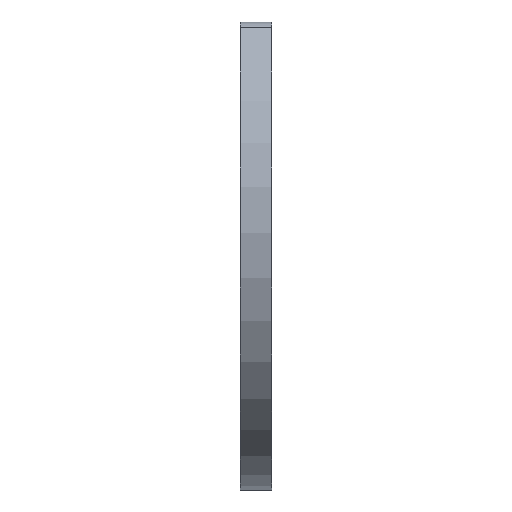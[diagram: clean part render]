
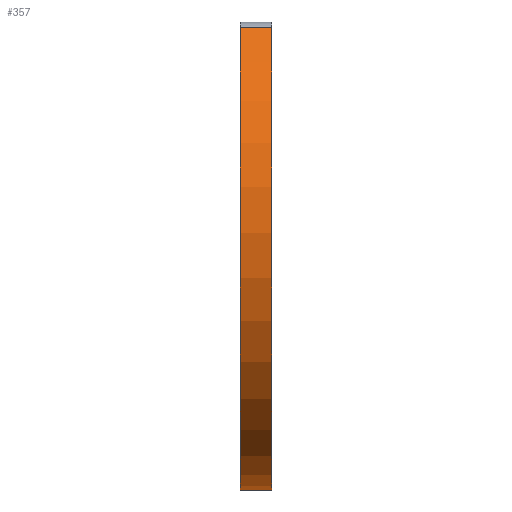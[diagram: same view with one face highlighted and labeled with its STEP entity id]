
A CAD part, left-side view. The second image highlights one B-rep face of the part: STEP entity #357.
In plain terms, the highlighted cylindrical face has radius 10.2 mm (diameter 20.4 mm), a partial arc.
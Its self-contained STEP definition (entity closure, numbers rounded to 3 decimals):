
#31 = VERTEX_POINT ( 'NONE', #367 ) ;
#45 = CARTESIAN_POINT ( 'NONE',  ( -7.032, -0.6, 7.389 ) ) ;
#63 = CARTESIAN_POINT ( 'NONE',  ( 0., 0.6, 0. ) ) ;
#85 = EDGE_CURVE ( 'NONE', #316, #637, #902, .T. ) ;
#102 = ORIENTED_EDGE ( 'NONE', *, *, #85, .F. ) ;
#122 = CARTESIAN_POINT ( 'NONE',  ( 0., 0.6, -10.2 ) ) ;
#139 = ORIENTED_EDGE ( 'NONE', *, *, #245, .T. ) ;
#140 = DIRECTION ( 'NONE',  ( 0., 1., 0. ) ) ;
#228 = EDGE_CURVE ( 'NONE', #31, #829, #874, .T. ) ;
#245 = EDGE_CURVE ( 'NONE', #829, #637, #473, .T. ) ;
#253 = AXIS2_PLACEMENT_3D ( 'NONE', #631, #262, #424 ) ;
#262 = DIRECTION ( 'NONE',  ( 0., -1., 0. ) ) ;
#282 = VECTOR ( 'NONE', #791, 1000. ) ;
#290 = DIRECTION ( 'NONE',  ( 0., -1., 0. ) ) ;
#291 = DIRECTION ( 'NONE',  ( 0., 1., 0. ) ) ;
#313 = CARTESIAN_POINT ( 'NONE',  ( 0., -0.6, 0. ) ) ;
#316 = VERTEX_POINT ( 'NONE', #122 ) ;
#330 = AXIS2_PLACEMENT_3D ( 'NONE', #63, #140, #657 ) ;
#357 = ADVANCED_FACE ( 'NONE', ( #827 ), #513, .T. ) ;
#367 = CARTESIAN_POINT ( 'NONE',  ( 0., -0.6, -10.2 ) ) ;
#372 = ORIENTED_EDGE ( 'NONE', *, *, #596, .T. ) ;
#424 = DIRECTION ( 'NONE',  ( 0., 0., -1. ) ) ;
#473 = LINE ( 'NONE', #574, #282 ) ;
#513 = CYLINDRICAL_SURFACE ( 'NONE', #253, 10.2 ) ;
#550 = EDGE_LOOP ( 'NONE', ( #102, #372, #876, #139 ) ) ;
#574 = CARTESIAN_POINT ( 'NONE',  ( -7.032, 0.6, 7.389 ) ) ;
#586 = CARTESIAN_POINT ( 'NONE',  ( -7.032, 0.6, 7.389 ) ) ;
#596 = EDGE_CURVE ( 'NONE', #316, #31, #872, .T. ) ;
#631 = CARTESIAN_POINT ( 'NONE',  ( 0., 0.6, 0. ) ) ;
#637 = VERTEX_POINT ( 'NONE', #586 ) ;
#657 = DIRECTION ( 'NONE',  ( 0., 0., 1. ) ) ;
#721 = AXIS2_PLACEMENT_3D ( 'NONE', #313, #291, #870 ) ;
#750 = CARTESIAN_POINT ( 'NONE',  ( 0., 0.6, -10.2 ) ) ;
#791 = DIRECTION ( 'NONE',  ( 0., 1., 0. ) ) ;
#827 = FACE_OUTER_BOUND ( 'NONE', #550, .T. ) ;
#829 = VERTEX_POINT ( 'NONE', #45 ) ;
#870 = DIRECTION ( 'NONE',  ( 0., 0., 1. ) ) ;
#872 = LINE ( 'NONE', #750, #912 ) ;
#874 = CIRCLE ( 'NONE', #721, 10.2 ) ;
#876 = ORIENTED_EDGE ( 'NONE', *, *, #228, .T. ) ;
#902 = CIRCLE ( 'NONE', #330, 10.2 ) ;
#912 = VECTOR ( 'NONE', #290, 1000. ) ;
